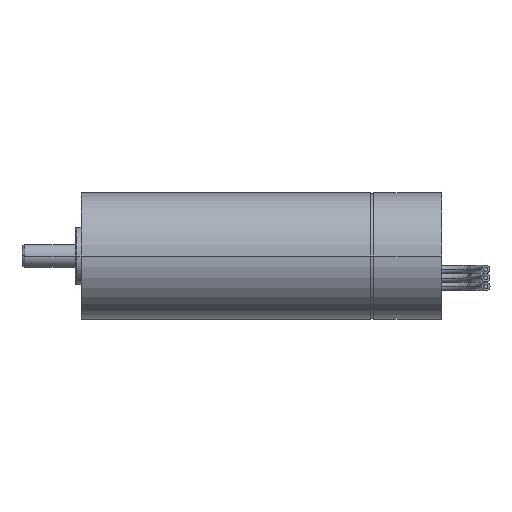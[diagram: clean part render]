
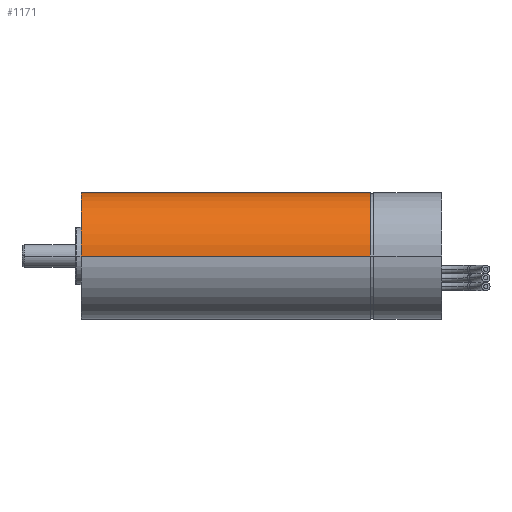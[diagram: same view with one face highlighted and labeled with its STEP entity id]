
A CAD part, front view. The second image highlights one B-rep face of the part: STEP entity #1171.
In plain terms, the highlighted cylindrical face has radius 11 mm (diameter 22 mm), a partial arc.
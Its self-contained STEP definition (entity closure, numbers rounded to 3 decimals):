
#57=CARTESIAN_POINT('',(50.3,0.,0.));
#58=DIRECTION('',(-1.,0.,0.));
#59=DIRECTION('',(0.,-1.,0.));
#60=AXIS2_PLACEMENT_3D('',#57,#58,#59);
#77=DIRECTION('',(-1.,0.,0.));
#78=VECTOR('',#77,50.3);
#79=CARTESIAN_POINT('',(50.3,11.,0.));
#80=LINE('',#79,#78);
#81=DIRECTION('',(1.,0.,0.));
#82=VECTOR('',#81,50.3);
#83=CARTESIAN_POINT('',(0.,-11.,0.));
#84=LINE('',#83,#82);
#90=CARTESIAN_POINT('',(0.,0.,0.));
#91=DIRECTION('',(1.,0.,0.));
#92=DIRECTION('',(0.,1.,0.));
#93=AXIS2_PLACEMENT_3D('',#90,#91,#92);
#841=CARTESIAN_POINT('',(50.3,-11.,0.));
#842=CARTESIAN_POINT('',(50.3,11.,0.));
#843=VERTEX_POINT('',#841);
#844=VERTEX_POINT('',#842);
#861=CARTESIAN_POINT('',(0.,11.,0.));
#862=VERTEX_POINT('',#861);
#863=CARTESIAN_POINT('',(0.,-11.,0.));
#864=VERTEX_POINT('',#863);
#1157=CARTESIAN_POINT('',(0.,0.,0.));
#1158=DIRECTION('',(1.,0.,0.));
#1159=DIRECTION('',(0.,-1.,0.));
#1160=AXIS2_PLACEMENT_3D('',#1157,#1158,#1159);
#1161=CYLINDRICAL_SURFACE('',#1160,11.);
#1162=ORIENTED_EDGE('',*,*,#1146,.F.);
#1164=ORIENTED_EDGE('',*,*,#1163,.F.);
#1166=ORIENTED_EDGE('',*,*,#1165,.F.);
#1168=ORIENTED_EDGE('',*,*,#1167,.F.);
#1169=EDGE_LOOP('',(#1162,#1164,#1166,#1168));
#1170=FACE_OUTER_BOUND('',#1169,.F.);
#1171=ADVANCED_FACE('',(#1170),#1161,.T.);
#61=CIRCLE('',#60,11.);
#94=CIRCLE('',#93,11.);
#1146=EDGE_CURVE('',#843,#844,#61,.T.);
#1163=EDGE_CURVE('',#864,#843,#84,.T.);
#1165=EDGE_CURVE('',#862,#864,#94,.T.);
#1167=EDGE_CURVE('',#844,#862,#80,.T.);
